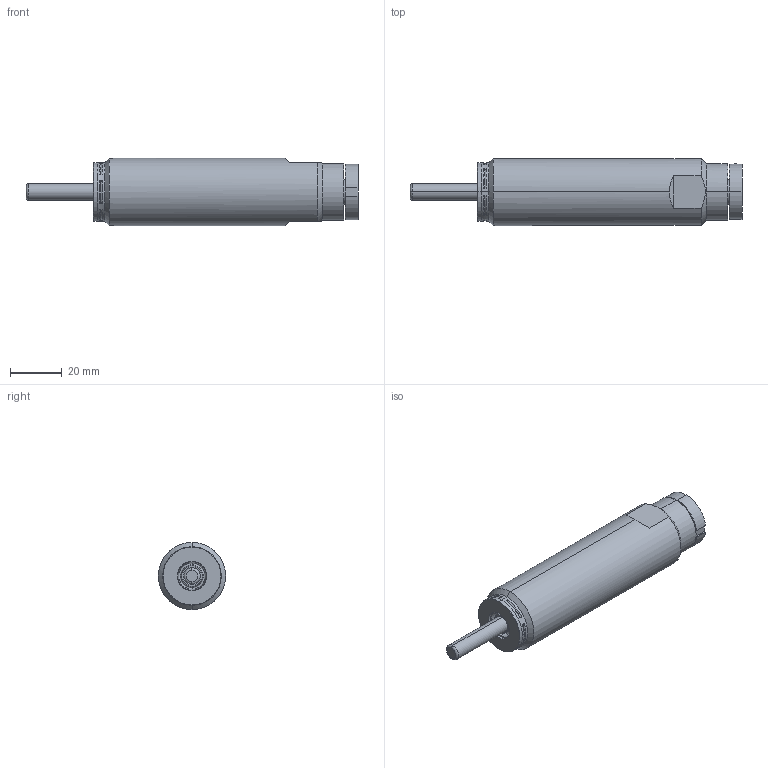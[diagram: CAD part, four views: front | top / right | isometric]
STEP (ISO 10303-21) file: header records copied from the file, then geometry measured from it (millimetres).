
FILE_DESCRIPTION (( 'STEP AP214' ), '1' );
FILE_NAME ('ECO OEM 1.0M_MF24059.STEP', '2016-02-23T14:07:09', ( '' ), ( '' ), 'SwSTEP 2.0', 'SolidWorks 2011', '' );
FILE_SCHEMA (( 'AUTOMOTIVE_DESIGN' ));
Length unit declared in the file: inch
Products named in the file (1): ECO OEM 1.0M_MF24059
Bounding box: 128.93 x 26.04 x 26.04 mm (x, y, z)
Surface area: 11158.5 mm2 (no closed solid volume)
Topology: 0 solids, 10 shells, 113 faces, 283 edges, 189 vertices
Faces by surface type: plane 48, cone 24, cylinder 23, torus 16, sphere 2
Entity records: 5025 total; most frequent: CARTESIAN_POINT 786, DIRECTION 620, ORIENTED_EDGE 508, EDGE_CURVE 278, AXIS2_PLACEMENT_3D 250, VERTEX_POINT 186, CIRCLE 136, EDGE_LOOP 134
